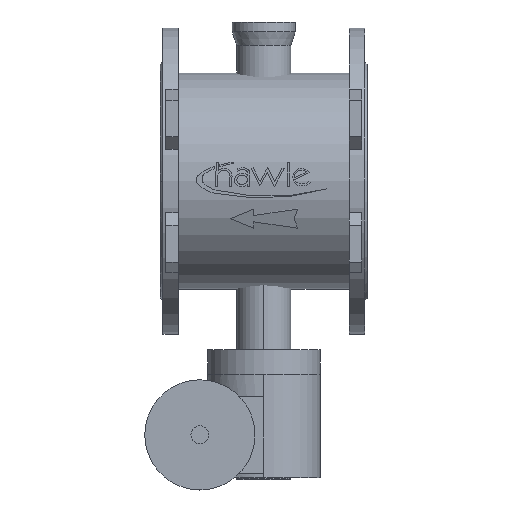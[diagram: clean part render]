
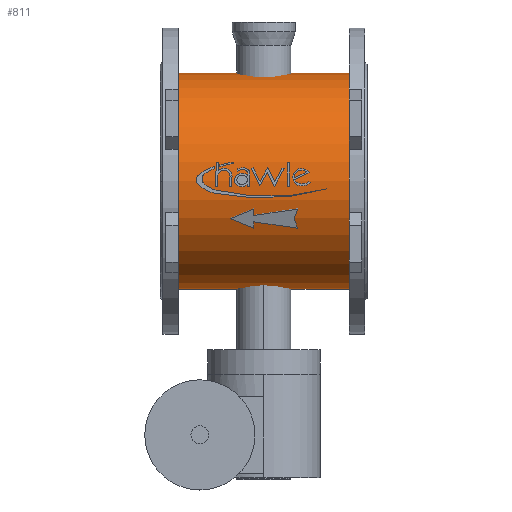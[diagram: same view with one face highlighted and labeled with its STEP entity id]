
A CAD part, top view. The second image highlights one B-rep face of the part: STEP entity #811.
In plain terms, the highlighted cylindrical face has radius 120 mm (diameter 240 mm), a partial arc.
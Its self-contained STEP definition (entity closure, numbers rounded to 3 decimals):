
#811=ADVANCED_FACE('',(#1745),#1746,.T.);
#1745=FACE_OUTER_BOUND('',#3161,.T.);
#1746=CYLINDRICAL_SURFACE('',#3162,120.0);
#3161=EDGE_LOOP('',(#4332,#4333,#4334,#4335));
#3162=AXIS2_PLACEMENT_3D('',#4336,#4337,#4338);
#4332=ORIENTED_EDGE('',*,*,#7290,.T.);
#4333=ORIENTED_EDGE('',*,*,#7291,.T.);
#4334=ORIENTED_EDGE('',*,*,#7292,.T.);
#4335=ORIENTED_EDGE('',*,*,#7293,.T.);
#4336=CARTESIAN_POINT('',(-210.0,0.,0.0));
#4337=DIRECTION('',(1.0,0.,0.0));
#4338=DIRECTION('',(0.,-1.0,0.0));
#7290=EDGE_CURVE('',#8465,#8466,#8467,.T.);
#7291=EDGE_CURVE('',#8466,#8468,#8469,.T.);
#7292=EDGE_CURVE('',#8468,#8470,#8471,.T.);
#7293=EDGE_CURVE('',#8470,#8465,#8472,.T.);
#8465=VERTEX_POINT('',#10143);
#8466=VERTEX_POINT('',#10144);
#8467=LINE('',#10145,#10146);
#8468=VERTEX_POINT('',#10147);
#8469=CIRCLE('',#10148,120.0);
#8470=VERTEX_POINT('',#10149);
#8471=LINE('',#10150,#10151);
#8472=CIRCLE('',#10152,120.0);
#10143=CARTESIAN_POINT('',(-210.0,-120.0,0.0));
#10144=CARTESIAN_POINT('',(-20.0,-120.0,0.0));
#10145=CARTESIAN_POINT('',(-210.0,-120.0,0.));
#10146=VECTOR('',#12321,1.0);
#10147=CARTESIAN_POINT('',(-20.0,120.0,0.));
#10148=AXIS2_PLACEMENT_3D('',#12322,#12323,#12324);
#10149=CARTESIAN_POINT('',(-210.0,120.0,0.));
#10150=CARTESIAN_POINT('',(-210.0,120.0,0.));
#10151=VECTOR('',#12325,1.0);
#10152=AXIS2_PLACEMENT_3D('',#12326,#12327,#12328);
#12321=DIRECTION('',(1.0,0.,0.0));
#12322=CARTESIAN_POINT('',(-20.0,0.,0.0));
#12323=DIRECTION('',(-1.0,0.,0.0));
#12324=DIRECTION('',(0.,-1.0,0.0));
#12325=DIRECTION('',(-1.0,0.,-0.0));
#12326=CARTESIAN_POINT('',(-210.0,0.,0.0));
#12327=DIRECTION('',(1.0,0.,0.0));
#12328=DIRECTION('',(0.,-1.0,0.0));
